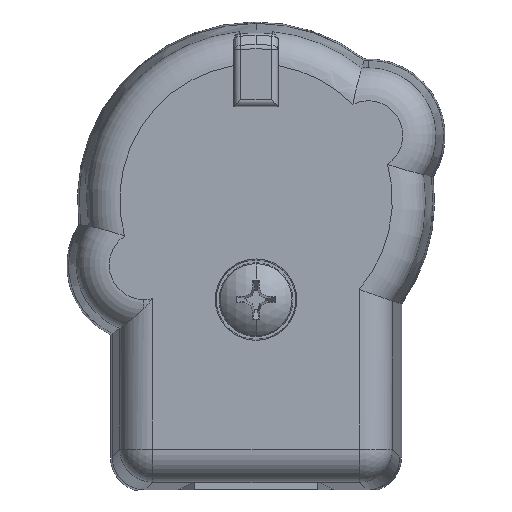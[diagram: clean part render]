
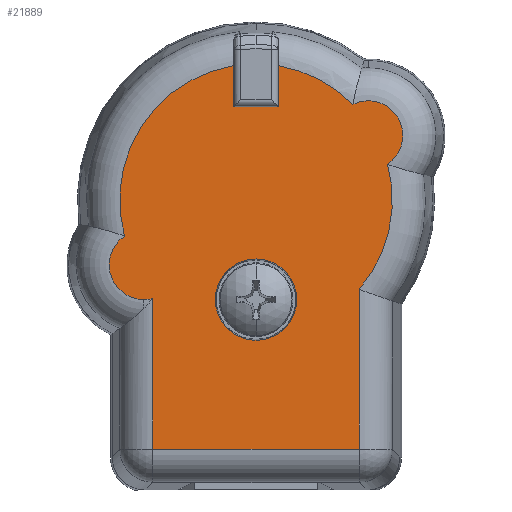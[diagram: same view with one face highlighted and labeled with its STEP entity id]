
A CAD part, top view. The second image highlights one B-rep face of the part: STEP entity #21889.
In plain terms, the highlighted planar face has unit normal (0, 0, 1).
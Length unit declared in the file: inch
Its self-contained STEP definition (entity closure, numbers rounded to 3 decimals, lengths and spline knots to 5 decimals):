
#286 = AXIS2_PLACEMENT_3D ( 'NONE', #7609, #27856, #10566 ) ;
#722 = CARTESIAN_POINT ( 'NONE',  ( -0.05, 0.39686, 1.362 ) ) ;
#1115 = DIRECTION ( 'NONE',  ( 0., -1., 0. ) ) ;
#1763 = LINE ( 'NONE', #7561, #16319 ) ;
#1997 = LINE ( 'NONE', #722, #25124 ) ;
#2020 = DIRECTION ( 'NONE',  ( 0., -1., 0. ) ) ;
#2025 = DIRECTION ( 'NONE',  ( 0., 0., 1. ) ) ;
#2104 = CARTESIAN_POINT ( 'NONE',  ( -0.25375, -0.1465, 1.362 ) ) ;
#2775 = DIRECTION ( 'NONE',  ( 0., 0., 1. ) ) ;
#2868 = DIRECTION ( 'NONE',  ( 1., 0., 0. ) ) ;
#3241 = AXIS2_PLACEMENT_3D ( 'NONE', #24683, #7385, #27617 ) ;
#3342 = VERTEX_POINT ( 'NONE', #8263 ) ;
#3352 = EDGE_CURVE ( 'NONE', #3342, #27658, #5583, .T. ) ;
#3698 = EDGE_CURVE ( 'NONE', #37626, #17408, #16348, .T. ) ;
#4455 = AXIS2_PLACEMENT_3D ( 'NONE', #7700, #7673, #7665 ) ;
#4679 = AXIS2_PLACEMENT_3D ( 'NONE', #14399, #34727, #17237 ) ;
#5508 = CARTESIAN_POINT ( 'NONE',  ( 0.05, 0.21186, 1.362 ) ) ;
#5583 = CIRCLE ( 'NONE', #4455, 0.30853 ) ;
#5704 = ORIENTED_EDGE ( 'NONE', *, *, #3352, .T. ) ;
#6084 = EDGE_CURVE ( 'NONE', #34149, #15468, #1997, .T. ) ;
#6086 = ORIENTED_EDGE ( 'NONE', *, *, #16169, .T. ) ;
#6292 = ORIENTED_EDGE ( 'NONE', *, *, #9285, .F. ) ;
#6441 = CARTESIAN_POINT ( 'NONE',  ( 0.05, 0.30445, 1.362 ) ) ;
#7075 = CIRCLE ( 'NONE', #286, 0.0921 ) ;
#7385 = DIRECTION ( 'NONE',  ( 0., 0., 1. ) ) ;
#7399 = DIRECTION ( 'NONE',  ( 0., 0., 1. ) ) ;
#7561 = CARTESIAN_POINT ( 'NONE',  ( -0.23353, -0.6321, 1.362 ) ) ;
#7609 = CARTESIAN_POINT ( 'NONE',  ( 0., -0.225, 1.362 ) ) ;
#7665 = DIRECTION ( 'NONE',  ( 0., -1., 0. ) ) ;
#7673 = DIRECTION ( 'NONE',  ( 0., 0., 1. ) ) ;
#7700 = CARTESIAN_POINT ( 'NONE',  ( 0., 0., 1.362 ) ) ;
#8263 = CARTESIAN_POINT ( 'NONE',  ( 0.21927, 0.21705, 1.362 ) ) ;
#8372 = ORIENTED_EDGE ( 'NONE', *, *, #17772, .T. ) ;
#8586 = ORIENTED_EDGE ( 'NONE', *, *, #3698, .T. ) ;
#9285 = EDGE_CURVE ( 'NONE', #27589, #23799, #18882, .T. ) ;
#9723 = FACE_BOUND ( 'NONE', #29281, .T. ) ;
#10566 = DIRECTION ( 'NONE',  ( 0., -1., 0. ) ) ;
#10568 = CARTESIAN_POINT ( 'NONE',  ( 0.23353, -0.22575, 1.362 ) ) ;
#10692 = EDGE_CURVE ( 'NONE', #33665, #22673, #15833, .T. ) ;
#10841 = DIRECTION ( 'NONE',  ( 0., 0., 1. ) ) ;
#10875 = LINE ( 'NONE', #35813, #17539 ) ;
#12742 = EDGE_CURVE ( 'NONE', #17408, #35408, #1763, .T. ) ;
#12887 = CARTESIAN_POINT ( 'NONE',  ( 0., -0.3171, 1.362 ) ) ;
#12895 = VERTEX_POINT ( 'NONE', #5508 ) ;
#12902 = CARTESIAN_POINT ( 'NONE',  ( -0.05, 0.30445, 1.362 ) ) ;
#12910 = EDGE_CURVE ( 'NONE', #22673, #3342, #20785, .T. ) ;
#13331 = CIRCLE ( 'NONE', #3241, 0.07853 ) ;
#13772 = EDGE_CURVE ( 'NONE', #23799, #27589, #7075, .T. ) ;
#14399 = CARTESIAN_POINT ( 'NONE',  ( 0.25375, 0.1465, 1.362 ) ) ;
#15395 = VECTOR ( 'NONE', #37128, 39.37008 ) ;
#15468 = VERTEX_POINT ( 'NONE', #18616 ) ;
#15833 = CIRCLE ( 'NONE', #19881, 0.30853 ) ;
#16169 = EDGE_CURVE ( 'NONE', #24540, #33665, #31550, .T. ) ;
#16271 = DIRECTION ( 'NONE',  ( 0., -1., 0. ) ) ;
#16319 = VECTOR ( 'NONE', #16271, 39.37008 ) ;
#16348 = CIRCLE ( 'NONE', #29744, 0.07853 ) ;
#17122 = CARTESIAN_POINT ( 'NONE',  ( 0.23353, -0.56337, 1.362 ) ) ;
#17237 = DIRECTION ( 'NONE',  ( 0., -1., 0. ) ) ;
#17277 = CARTESIAN_POINT ( 'NONE',  ( 0., 0., 1.362 ) ) ;
#17408 = VERTEX_POINT ( 'NONE', #34970 ) ;
#17539 = VECTOR ( 'NONE', #24120, 39.37008 ) ;
#17772 = EDGE_CURVE ( 'NONE', #35408, #24540, #30820, .T. ) ;
#17850 = LINE ( 'NONE', #37732, #33392 ) ;
#18616 = CARTESIAN_POINT ( 'NONE',  ( -0.05, 0.21186, 1.362 ) ) ;
#18882 = CIRCLE ( 'NONE', #36240, 0.0921 ) ;
#19167 = VERTEX_POINT ( 'NONE', #21627 ) ;
#19352 = ORIENTED_EDGE ( 'NONE', *, *, #6084, .F. ) ;
#19626 = CARTESIAN_POINT ( 'NONE',  ( 0.23353, -0.56337, 1.362 ) ) ;
#19705 = EDGE_CURVE ( 'NONE', #12895, #27658, #10875, .T. ) ;
#19881 = AXIS2_PLACEMENT_3D ( 'NONE', #20135, #2775, #23058 ) ;
#20010 = AXIS2_PLACEMENT_3D ( 'NONE', #17277, #37701, #20207 ) ;
#20135 = CARTESIAN_POINT ( 'NONE',  ( 0., 0., 1.362 ) ) ;
#20207 = DIRECTION ( 'NONE',  ( 0., -1., 0. ) ) ;
#20785 = CIRCLE ( 'NONE', #4679, 0.07853 ) ;
#21627 = CARTESIAN_POINT ( 'NONE',  ( -0.29761, -0.08136, 1.362 ) ) ;
#21889 = ADVANCED_FACE ( 'NONE', ( #31964, #9723 ), #36258, .T. ) ;
#21986 = ORIENTED_EDGE ( 'NONE', *, *, #19705, .F. ) ;
#22149 = EDGE_LOOP ( 'NONE', ( #32862, #8372, #6086, #26486, #24223, #5704, #21986, #28411, #19352, #33513, #23453, #8586 ) ) ;
#22354 = CARTESIAN_POINT ( 'NONE',  ( 0.29761, 0.08136, 1.362 ) ) ;
#22673 = VERTEX_POINT ( 'NONE', #22354 ) ;
#23058 = DIRECTION ( 'NONE',  ( 0., -1., 0. ) ) ;
#23453 = ORIENTED_EDGE ( 'NONE', *, *, #32265, .T. ) ;
#23516 = CARTESIAN_POINT ( 'NONE',  ( -0.25375, -0.22503, 1.362 ) ) ;
#23719 = VECTOR ( 'NONE', #36720, 39.37008 ) ;
#23736 = CARTESIAN_POINT ( 'NONE',  ( -0.23353, -0.56337, 1.362 ) ) ;
#23799 = VERTEX_POINT ( 'NONE', #12887 ) ;
#24120 = DIRECTION ( 'NONE',  ( 0., 1., 0. ) ) ;
#24223 = ORIENTED_EDGE ( 'NONE', *, *, #12910, .T. ) ;
#24540 = VERTEX_POINT ( 'NONE', #17122 ) ;
#24683 = CARTESIAN_POINT ( 'NONE',  ( -0.25375, -0.1465, 1.362 ) ) ;
#24696 = CARTESIAN_POINT ( 'NONE',  ( 0., 0., 1.362 ) ) ;
#25124 = VECTOR ( 'NONE', #1115, 39.37008 ) ;
#26102 = AXIS2_PLACEMENT_3D ( 'NONE', #24696, #7399, #27635 ) ;
#26486 = ORIENTED_EDGE ( 'NONE', *, *, #10692, .T. ) ;
#27577 = ORIENTED_EDGE ( 'NONE', *, *, #13772, .F. ) ;
#27589 = VERTEX_POINT ( 'NONE', #34789 ) ;
#27617 = DIRECTION ( 'NONE',  ( 0., -1., 0. ) ) ;
#27635 = DIRECTION ( 'NONE',  ( 0., -1., 0. ) ) ;
#27658 = VERTEX_POINT ( 'NONE', #6441 ) ;
#27856 = DIRECTION ( 'NONE',  ( 0., 0., 1. ) ) ;
#28133 = CARTESIAN_POINT ( 'NONE',  ( 0., -0.225, 1.362 ) ) ;
#28411 = ORIENTED_EDGE ( 'NONE', *, *, #31727, .F. ) ;
#29281 = EDGE_LOOP ( 'NONE', ( #27577, #6292 ) ) ;
#29744 = AXIS2_PLACEMENT_3D ( 'NONE', #2104, #2025, #2020 ) ;
#30820 = LINE ( 'NONE', #19626, #15395 ) ;
#31074 = DIRECTION ( 'NONE',  ( 0., -1., 0. ) ) ;
#31550 = LINE ( 'NONE', #10568, #23719 ) ;
#31727 = EDGE_CURVE ( 'NONE', #15468, #12895, #17850, .T. ) ;
#31964 = FACE_OUTER_BOUND ( 'NONE', #22149, .T. ) ;
#32265 = EDGE_CURVE ( 'NONE', #19167, #37626, #13331, .T. ) ;
#32862 = ORIENTED_EDGE ( 'NONE', *, *, #12742, .T. ) ;
#33023 = CIRCLE ( 'NONE', #20010, 0.30853 ) ;
#33082 = CARTESIAN_POINT ( 'NONE',  ( 0.23353, -0.20163, 1.362 ) ) ;
#33392 = VECTOR ( 'NONE', #2868, 39.37008 ) ;
#33513 = ORIENTED_EDGE ( 'NONE', *, *, #36325, .T. ) ;
#33665 = VERTEX_POINT ( 'NONE', #33082 ) ;
#34149 = VERTEX_POINT ( 'NONE', #12902 ) ;
#34727 = DIRECTION ( 'NONE',  ( 0., 0., 1. ) ) ;
#34789 = CARTESIAN_POINT ( 'NONE',  ( 0., -0.1329, 1.362 ) ) ;
#34970 = CARTESIAN_POINT ( 'NONE',  ( -0.23353, -0.22238, 1.362 ) ) ;
#35408 = VERTEX_POINT ( 'NONE', #23736 ) ;
#35813 = CARTESIAN_POINT ( 'NONE',  ( 0.05, 0.39686, 1.362 ) ) ;
#36240 = AXIS2_PLACEMENT_3D ( 'NONE', #28133, #10841, #31074 ) ;
#36258 = PLANE ( 'NONE',  #26102 ) ;
#36325 = EDGE_CURVE ( 'NONE', #34149, #19167, #33023, .T. ) ;
#36720 = DIRECTION ( 'NONE',  ( 0., 1., 0. ) ) ;
#37128 = DIRECTION ( 'NONE',  ( 1., 0., 0. ) ) ;
#37626 = VERTEX_POINT ( 'NONE', #23516 ) ;
#37701 = DIRECTION ( 'NONE',  ( 0., 0., 1. ) ) ;
#37732 = CARTESIAN_POINT ( 'NONE',  ( -0.05, 0.21186, 1.362 ) ) ;
